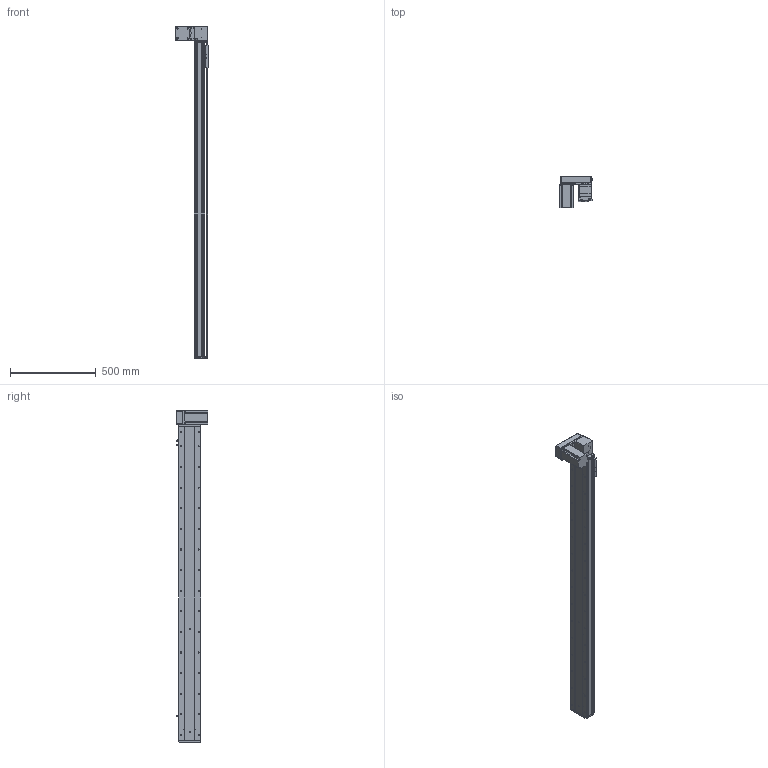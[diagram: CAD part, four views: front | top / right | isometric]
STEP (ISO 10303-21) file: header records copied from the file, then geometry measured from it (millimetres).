
FILE_DESCRIPTION (( 'STEP AP214' ), '1' );
FILE_NAME ('KSD130B-S1600-MRD-CM.STEP', '2019-09-23T01:56:36', ( '微软用户' ), ( '微软中国' ), 'SwSTEP 2.0', 'SolidWorks 2014', '' );
FILE_SCHEMA (( 'AUTOMOTIVE_DESIGN' ));
Length unit declared in the file: millimetre
Products named in the file (12): 130宽底板半封闭同步带-1600行程; KSD130B-S1600-MRD-CM; 130宽模组保护罩上下左右折-同步带; 台达ECMA－C20807AS伺服电机; 130宽模组马达安装板连板上下折丝杆同步带; 覜茼え100遵圉猾敕; U倰嫖萇EEㄜSX672; 130宽盖板半封闭同步带-1600行程; 130宽马达安装板同步带右-改镜向_默认<按加工>; 130宽马达安装板同步带半封闭; 130宽同步带安装座半封闭; 130宽端盖同步带半封闭
Assembly tree (13 placements, depth 2):
  KSD130B-S1600-MRD-CM
    130宽底板半封闭同步带-1600行程
    130宽端盖同步带半封闭
    130宽同步带安装座半封闭
    130宽马达安装板同步带半封闭
    130宽马达安装板同步带右-改镜向_默认<按加工>
    130宽盖板半封闭同步带-1600行程
    U倰嫖萇EEㄜSX672  x3
    覜茼え100遵圉猾敕
    130宽模组马达安装板连板上下折丝杆同步带
    台达ECMA－C20807AS伺服电机
    130宽模组保护罩上下左右折-同步带
Bounding box: 187.5 x 184.8 x 1933 mm (x, y, z)
Volume: 6583994.2 mm3; surface area: 1853276 mm2
Topology: 14 solids, 14 shells, 1689 faces, 4905 edges, 3111 vertices
Faces by surface type: cylinder 828, plane 646, cone 215
Entity records: 57275 total; most frequent: CARTESIAN_POINT 11016, DIRECTION 8647, ORIENTED_EDGE 8366, EDGE_CURVE 4183, AXIS2_PLACEMENT_3D 3182, VERTEX_POINT 2735, LINE 2283, VECTOR 2283
